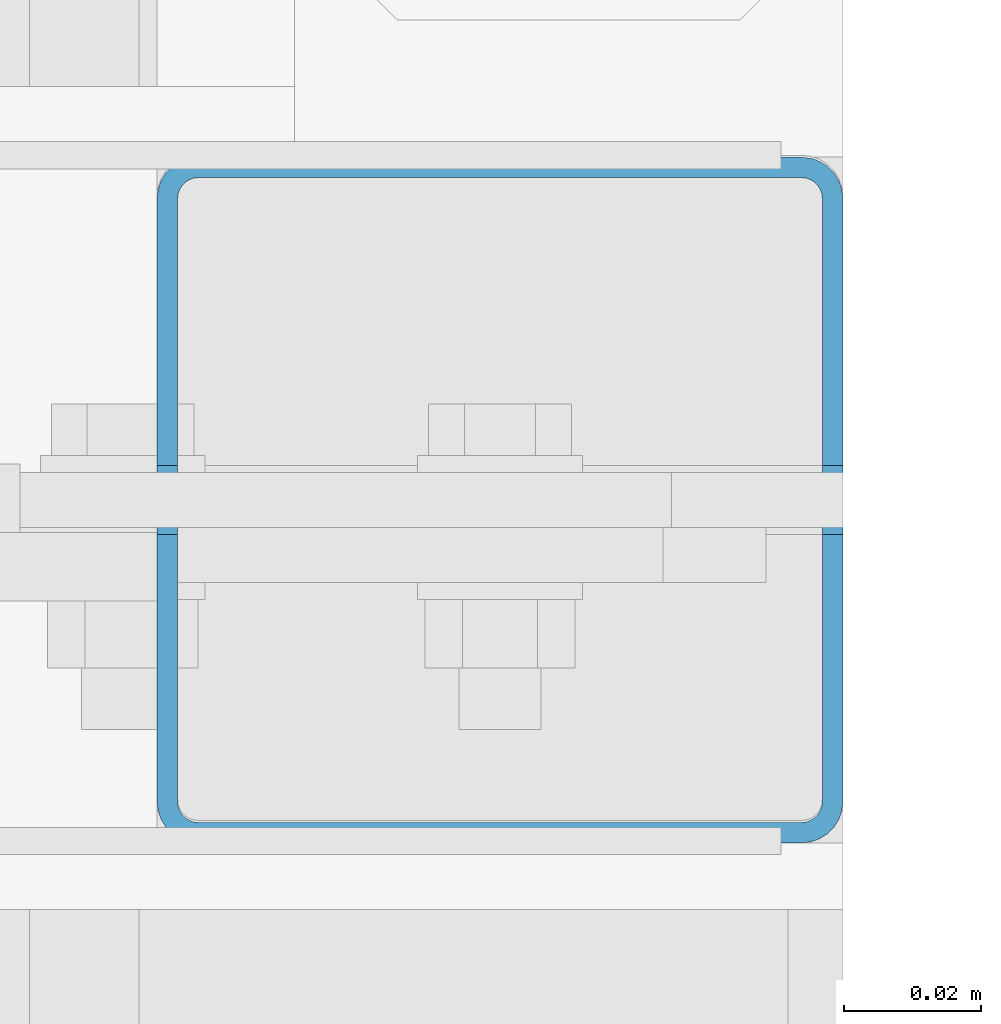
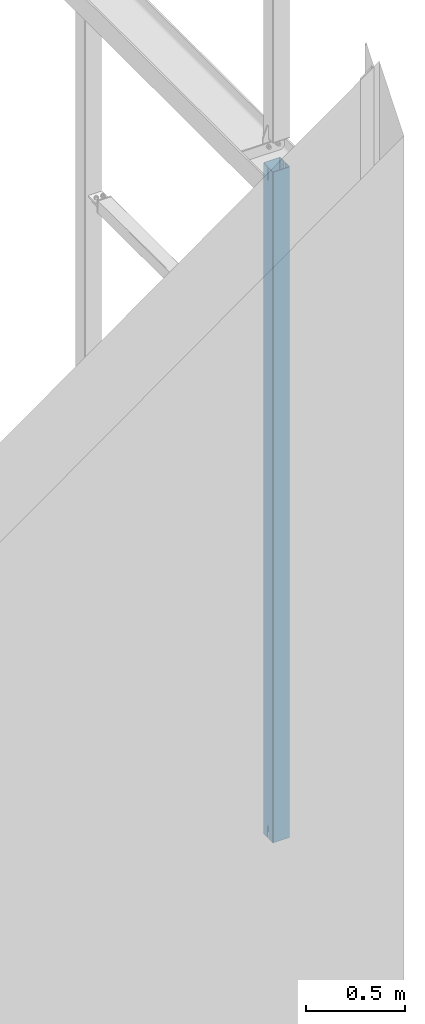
# One storey, part 42 of 271: 1 beam, 1 element without a shape of its own.
"""IFC2X3 building model written with IfcOpenShell, lengths in millimetres."""

from ifc_helpers import new_model, si_unit, frame, origin_with_axes, origin_2d_with_axis, place, context, subcontext, project, spatial, polyline, hollow_rectangle, outline, extrude, boolean, halfspace, material, type_object, element, aggregate, save


model = new_model("IFC2X3")

# Units and contexts
model_context = context("Model", 3, precision=1e-05, world=origin_with_axes())
body_context = subcontext(model_context, "Body", "Model", "MODEL_VIEW")
ifc_project = project(units=[si_unit("LENGTHUNIT", "METRE", prefix="MILLI"), si_unit("AREAUNIT", "SQUARE_METRE"), si_unit("VOLUMEUNIT", "CUBIC_METRE"), si_unit("MASSUNIT", "GRAM", prefix="KILO"), si_unit("TIMEUNIT", "SECOND"), si_unit("PLANEANGLEUNIT", "RADIAN"), si_unit("SOLIDANGLEUNIT", "STERADIAN"), si_unit("THERMODYNAMICTEMPERATUREUNIT", "DEGREE_CELSIUS"), si_unit("LUMINOUSINTENSITYUNIT", "LUMEN")], contexts=[model_context])

# Site, building, storey
site_placement = place(None, origin_with_axes())
site = spatial("IfcSite", under=ifc_project, at=site_placement, Name="Undefined", CompositionType="ELEMENT")
building_placement = place(site_placement, origin_with_axes())
building = spatial("IfcBuilding", under=site, at=building_placement, Name="Undefined", CompositionType="ELEMENT")
storey_placement = place(building_placement, origin_with_axes())
storey = spatial("IfcBuildingStorey", under=building, at=storey_placement, Name="Undefined", CompositionType="ELEMENT", Elevation=0.0)

# Assembly, beam
assembly_placement = place(storey_placement, origin_with_axes())
assembly = element("IfcElementAssembly", 1, at=assembly_placement, inside=storey, AssemblyPlace="NOTDEFINED", PredefinedType="RIGID_FRAME")
ifc_material = material(Name="STEEL/S355JR")
beam_type = type_object("IfcBeamType", Name="SHS100*3", PredefinedType="NOTDEFINED")
beam_placement = place(assembly_placement, frame((12658.3756870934, 899.052119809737, 1451.84999990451), z_axis=(0.0, 1.0, 0.0), x_axis=(0.0, 0.0, 1.0)))
beam = element("IfcBeam", 2, at=beam_placement, type_object=beam_type, material=ifc_material, Name="RYGIEL", ObjectType="SHS100*3", context=body_context, shape_type="CSG", body=[
    boolean("DIFFERENCE", boolean("DIFFERENCE", boolean("DIFFERENCE", extrude(hollow_rectangle(XDim=100.0, YDim=100.0, WallThickness=3.0, InnerFilletRadius=3.0, OuterFilletRadius=6.0, at=origin_2d_with_axis()), frame((4141.0, 0.0, 0.0), z_axis=(-1.0, 0.0, 1.38777878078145e-17), x_axis=(0.0, -1.0, 0.0)), (0.0, 0.0, 1.0), 4141.0), extrude(outline(polyline([(0.0, 40.0), (80.0, 0.0), (151.0, -1.91135995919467e-12), (151.0, 120.0), (91.0, 120.0), (91.0, 150.0), (1.4210854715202e-14, 150.0), (0.0, 40.0)])), frame((4064.0, -99.9999999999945, -4.99999999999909), z_axis=(0.0, 0.0, 1.0), x_axis=(1.0, 0.0, 0.0)), (0.0, 0.0, 1.0), 10.0)), extrude(outline(polyline([(0.0, 40.0), (80.0, 0.0), (151.0, -1.91135995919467e-12), (151.0, 120.0), (91.0, 120.0), (91.0, 150.0), (1.4210854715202e-14, 150.0), (0.0, 40.0)])), frame((81.0000000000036, -99.9999999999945, 5.00000000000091), z_axis=(0.0, 0.0, -1.0), x_axis=(-1.0, 0.0, 1.38777878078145e-17)), (0.0, 0.0, 1.0), 10.0)), halfspace(frame((4.0, 0.0, -50.0), z_axis=(1.0, 0.0, 0.0), x_axis=(0.0, 0.0, 1.0)), True)),
])
aggregate(assembly, [beam])

save(model, "model.ifc")
